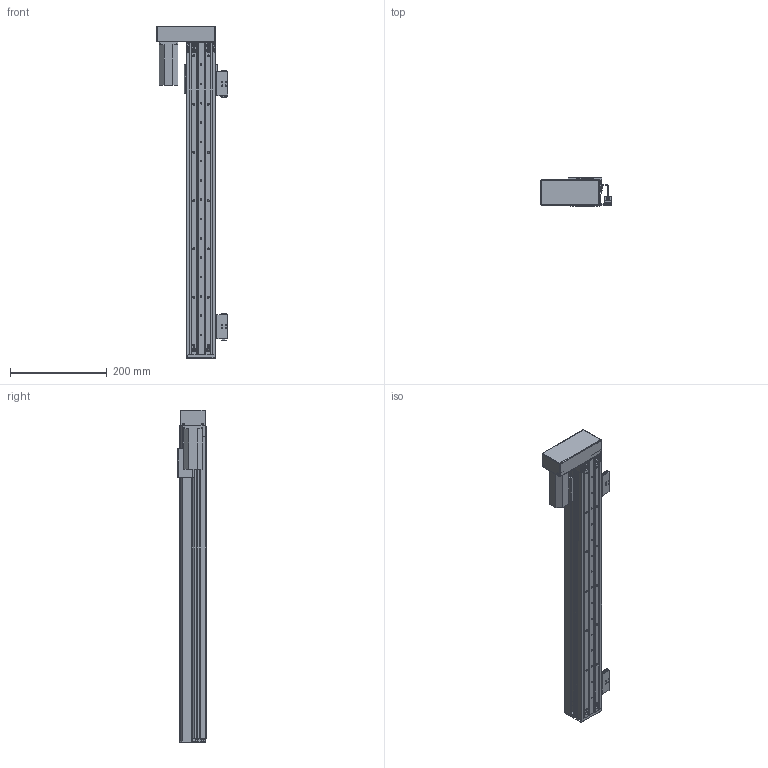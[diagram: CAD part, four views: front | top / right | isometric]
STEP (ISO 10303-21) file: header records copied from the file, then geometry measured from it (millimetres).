
FILE_DESCRIPTION (( 'STEP AP203' ), '1' );
FILE_NAME ('RY60FB-L1210-300-LK.SLDASM_500.step', '2021-02-23T01:00:56', ( '盈信电脑' ), ( '东莞市道滘镇水果街19号' ), 'SwSTEP 2.0', 'SolidWorks 2012', '' );
FILE_SCHEMA (( 'CONFIG_CONTROL_DESIGN' ));
Length unit declared in the file: millimetre
Products named in the file (14): RY60FB-臏賑輸; 滅袉蝶18-10; RY60FB-蛌殏奻裔-300-LK_500; RY60FB-蛌殏菁釱-300-LK_500; RY60FB转折电机端支撑座; RY60FB-左右折电机安装板; RY60FB綴裔啣; 侂狟100W; RY60FB-674嫖萇耀輸; 覜茼ん674; RY60FB-L1210-300-LK.SLDASM_500; RY80俋离覜茼え; RY60FB-蛌殏萇儂欶; RY60FB-感应器674光电安装座
Assembly tree (18 placements, depth 3):
  RY60FB-L1210-300-LK.SLDASM_500
    RY60FB-蛌殏菁釱-300-LK_500
    RY60FB-臏賑輸
    滅袉蝶18-10  x4
    RY60FB-蛌殏奻裔-300-LK_500
    侂狟100W
    RY60FB綴裔啣
    RY60FB转折电机端支撑座
    RY60FB-左右折电机安装板
    RY60FB-蛌殏萇儂欶
    RY60FB-674嫖萇耀輸  x2
      RY60FB-感应器674光电安装座
      覜茼ん674
    RY80俋离覜茼え
Bounding box: 147.75 x 58.5 x 688 mm (x, y, z)
Volume: 912499.7 mm3; surface area: 506559.6 mm2
Topology: 19 solids, 19 shells, 1167 faces, 3176 edges, 2026 vertices
Faces by surface type: plane 591, cylinder 471, cone 97, bspline 8
Entity records: 31568 total; most frequent: CARTESIAN_POINT 6162, DIRECTION 5018, ORIENTED_EDGE 4904, EDGE_CURVE 2452, AXIS2_PLACEMENT_3D 1756, VERTEX_POINT 1588, LINE 1506, VECTOR 1506
